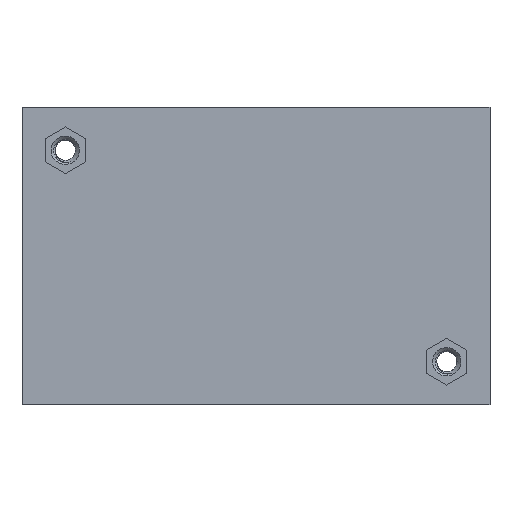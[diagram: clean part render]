
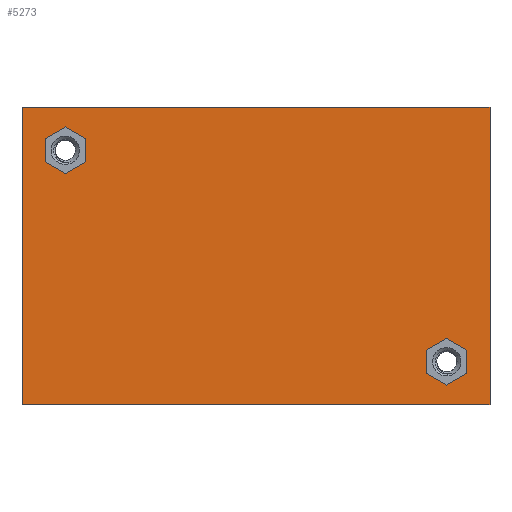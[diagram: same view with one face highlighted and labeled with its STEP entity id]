
A CAD part, front view. The second image highlights one B-rep face of the part: STEP entity #5273.
In plain terms, the highlighted planar face has unit normal (0, -1, 0) as drawn and (0, 1, 0) by its records, which use the part's own axes.
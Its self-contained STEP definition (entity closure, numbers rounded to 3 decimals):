
#5206 = VERTEX_POINT ( 'NONE', #24142 ) ;
#5249 = EDGE_CURVE ( 'NONE', #5262, #5392, #24239, .T. ) ;
#5250 = EDGE_CURVE ( 'NONE', #5251, #5252, #24234, .T. ) ;
#5251 = VERTEX_POINT ( 'NONE', #24304 ) ;
#5252 = VERTEX_POINT ( 'NONE', #24303 ) ;
#5253 = ORIENTED_EDGE ( 'NONE', *, *, #5396, .T. ) ;
#5254 = ORIENTED_EDGE ( 'NONE', *, *, #5255, .T. ) ;
#5255 = EDGE_CURVE ( 'NONE', #5267, #5262, #24302, .T. ) ;
#5257 = ORIENTED_EDGE ( 'NONE', *, *, #5259, .T. ) ;
#5259 = EDGE_CURVE ( 'NONE', #5265, #5267, #24298, .T. ) ;
#5262 = VERTEX_POINT ( 'NONE', #24294 ) ;
#5263 = EDGE_CURVE ( 'NONE', #5264, #5265, #24293, .T. ) ;
#5264 = VERTEX_POINT ( 'NONE', #24289 ) ;
#5265 = VERTEX_POINT ( 'NONE', #24288 ) ;
#5267 = VERTEX_POINT ( 'NONE', #24287 ) ;
#5273 = ADVANCED_FACE ( 'NONE', ( #24282, #24281, #24280 ), #24279, .T. ) ;
#5276 = ORIENTED_EDGE ( 'NONE', *, *, #5263, .T. ) ;
#5280 = EDGE_LOOP ( 'NONE', ( #5276, #5257, #5254, #5394, #5388, #5391 ) ) ;
#5284 = VERTEX_POINT ( 'NONE', #24334 ) ;
#5338 = VERTEX_POINT ( 'NONE', #24340 ) ;
#5340 = ORIENTED_EDGE ( 'NONE', *, *, #5342, .T. ) ;
#5342 = EDGE_CURVE ( 'NONE', #5349, #5345, #24398, .T. ) ;
#5345 = VERTEX_POINT ( 'NONE', #24394 ) ;
#5347 = ORIENTED_EDGE ( 'NONE', *, *, #5355, .T. ) ;
#5349 = VERTEX_POINT ( 'NONE', #24393 ) ;
#5351 = EDGE_CURVE ( 'NONE', #5345, #5370, #24392, .T. ) ;
#5353 = ORIENTED_EDGE ( 'NONE', *, *, #5359, .T. ) ;
#5355 = EDGE_CURVE ( 'NONE', #5338, #5349, #24388, .T. ) ;
#5357 = ORIENTED_EDGE ( 'NONE', *, *, #5351, .T. ) ;
#5359 = EDGE_CURVE ( 'NONE', #5206, #5338, #24384, .T. ) ;
#5361 = ORIENTED_EDGE ( 'NONE', *, *, #5376, .T. ) ;
#5364 = EDGE_LOOP ( 'NONE', ( #5372, #5361, #5353, #5347, #5340, #5357 ) ) ;
#5366 = ORIENTED_EDGE ( 'NONE', *, *, #5377, .T. ) ;
#5368 = EDGE_CURVE ( 'NONE', #5370, #5374, #24380, .T. ) ;
#5370 = VERTEX_POINT ( 'NONE', #24376 ) ;
#5372 = ORIENTED_EDGE ( 'NONE', *, *, #5368, .T. ) ;
#5374 = VERTEX_POINT ( 'NONE', #24375 ) ;
#5376 = EDGE_CURVE ( 'NONE', #5374, #5206, #24374, .T. ) ;
#5377 = EDGE_CURVE ( 'NONE', #5284, #5251, #24370, .T. ) ;
#5378 = EDGE_CURVE ( 'NONE', #5389, #5264, #24429, .T. ) ;
#5380 = ORIENTED_EDGE ( 'NONE', *, *, #5381, .T. ) ;
#5381 = EDGE_CURVE ( 'NONE', #5252, #5382, #24425, .T. ) ;
#5382 = VERTEX_POINT ( 'NONE', #24421 ) ;
#5383 = EDGE_CURVE ( 'NONE', #5392, #5389, #24420, .T. ) ;
#5387 = EDGE_LOOP ( 'NONE', ( #5390, #5380, #5253, #5366 ) ) ;
#5388 = ORIENTED_EDGE ( 'NONE', *, *, #5383, .T. ) ;
#5389 = VERTEX_POINT ( 'NONE', #24416 ) ;
#5390 = ORIENTED_EDGE ( 'NONE', *, *, #5250, .T. ) ;
#5391 = ORIENTED_EDGE ( 'NONE', *, *, #5378, .T. ) ;
#5392 = VERTEX_POINT ( 'NONE', #24415 ) ;
#5394 = ORIENTED_EDGE ( 'NONE', *, *, #5249, .T. ) ;
#5396 = EDGE_CURVE ( 'NONE', #5382, #5284, #24414, .T. ) ;
#23742 = CARTESIAN_POINT ( 'NONE',  ( -28.95, 1.2, -18.4 ) ) ;
#24142 = CARTESIAN_POINT ( 'NONE',  ( 23.6, 1.2, 15.967 ) ) ;
#24234 = LINE ( 'NONE', #23742, #24306 ) ;
#24236 = DIRECTION ( 'NONE',  ( 0., 0., -1. ) ) ;
#24237 = VECTOR ( 'NONE', #24236, 1000. ) ;
#24238 = CARTESIAN_POINT ( 'NONE',  ( -26.1, 1.2, -11.637 ) ) ;
#24239 = LINE ( 'NONE', #24238, #24237 ) ;
#24274 = DIRECTION ( 'NONE',  ( 0., 0., 1. ) ) ;
#24275 = DIRECTION ( 'NONE',  ( 0., 1., 0. ) ) ;
#24276 = AXIS2_PLACEMENT_3D ( 'NONE', #24278, #24275, #24274 ) ;
#24278 = CARTESIAN_POINT ( 'NONE',  ( -28.95, 1.2, 18.4 ) ) ;
#24279 = PLANE ( 'NONE',  #24276 ) ;
#24280 = FACE_BOUND ( 'NONE', #5364, .T. ) ;
#24281 = FACE_OUTER_BOUND ( 'NONE', #5387, .T. ) ;
#24282 = FACE_BOUND ( 'NONE', #5280, .T. ) ;
#24287 = CARTESIAN_POINT ( 'NONE',  ( -23.6, 1.2, -10.193 ) ) ;
#24288 = CARTESIAN_POINT ( 'NONE',  ( -21.1, 1.2, -11.637 ) ) ;
#24289 = CARTESIAN_POINT ( 'NONE',  ( -21.1, 1.2, -14.523 ) ) ;
#24290 = DIRECTION ( 'NONE',  ( 0., 0., 1. ) ) ;
#24291 = VECTOR ( 'NONE', #24290, 1000. ) ;
#24292 = CARTESIAN_POINT ( 'NONE',  ( -21.1, 1.2, -14.523 ) ) ;
#24293 = LINE ( 'NONE', #24292, #24291 ) ;
#24294 = CARTESIAN_POINT ( 'NONE',  ( -26.1, 1.2, -11.637 ) ) ;
#24295 = DIRECTION ( 'NONE',  ( -0.866, 0., 0.5 ) ) ;
#24296 = VECTOR ( 'NONE', #24295, 1000. ) ;
#24297 = CARTESIAN_POINT ( 'NONE',  ( -21.1, 1.2, -11.637 ) ) ;
#24298 = LINE ( 'NONE', #24297, #24296 ) ;
#24299 = DIRECTION ( 'NONE',  ( -0.866, 0., -0.5 ) ) ;
#24300 = VECTOR ( 'NONE', #24299, 1000. ) ;
#24301 = CARTESIAN_POINT ( 'NONE',  ( -23.6, 1.2, -10.193 ) ) ;
#24302 = LINE ( 'NONE', #24301, #24300 ) ;
#24303 = CARTESIAN_POINT ( 'NONE',  ( -28.95, 1.2, 18.4 ) ) ;
#24304 = CARTESIAN_POINT ( 'NONE',  ( -28.95, 1.2, -18.4 ) ) ;
#24305 = DIRECTION ( 'NONE',  ( 0., 0., 1. ) ) ;
#24306 = VECTOR ( 'NONE', #24305, 1000. ) ;
#24334 = CARTESIAN_POINT ( 'NONE',  ( 28.95, 1.2, -18.4 ) ) ;
#24340 = CARTESIAN_POINT ( 'NONE',  ( 21.1, 1.2, 14.523 ) ) ;
#24367 = DIRECTION ( 'NONE',  ( -1., 0., 0. ) ) ;
#24368 = VECTOR ( 'NONE', #24367, 1000. ) ;
#24369 = CARTESIAN_POINT ( 'NONE',  ( -28.95, 1.2, -18.4 ) ) ;
#24370 = LINE ( 'NONE', #24369, #24368 ) ;
#24371 = DIRECTION ( 'NONE',  ( -0.866, 0., 0.5 ) ) ;
#24372 = VECTOR ( 'NONE', #24371, 1000. ) ;
#24373 = CARTESIAN_POINT ( 'NONE',  ( 26.1, 1.2, 14.523 ) ) ;
#24374 = LINE ( 'NONE', #24373, #24372 ) ;
#24375 = CARTESIAN_POINT ( 'NONE',  ( 26.1, 1.2, 14.523 ) ) ;
#24376 = CARTESIAN_POINT ( 'NONE',  ( 26.1, 1.2, 11.637 ) ) ;
#24377 = DIRECTION ( 'NONE',  ( 0., 0., 1. ) ) ;
#24378 = VECTOR ( 'NONE', #24377, 1000. ) ;
#24379 = CARTESIAN_POINT ( 'NONE',  ( 26.1, 1.2, 11.637 ) ) ;
#24380 = LINE ( 'NONE', #24379, #24378 ) ;
#24381 = DIRECTION ( 'NONE',  ( -0.866, 0., -0.5 ) ) ;
#24382 = VECTOR ( 'NONE', #24381, 1000. ) ;
#24383 = CARTESIAN_POINT ( 'NONE',  ( 23.6, 1.2, 15.967 ) ) ;
#24384 = LINE ( 'NONE', #24383, #24382 ) ;
#24385 = DIRECTION ( 'NONE',  ( 0., 0., -1. ) ) ;
#24386 = VECTOR ( 'NONE', #24385, 1000. ) ;
#24387 = CARTESIAN_POINT ( 'NONE',  ( 21.1, 1.2, 14.523 ) ) ;
#24388 = LINE ( 'NONE', #24387, #24386 ) ;
#24389 = DIRECTION ( 'NONE',  ( 0.866, 0., 0.5 ) ) ;
#24390 = VECTOR ( 'NONE', #24389, 1000. ) ;
#24391 = CARTESIAN_POINT ( 'NONE',  ( 23.6, 1.2, 10.193 ) ) ;
#24392 = LINE ( 'NONE', #24391, #24390 ) ;
#24393 = CARTESIAN_POINT ( 'NONE',  ( 21.1, 1.2, 11.637 ) ) ;
#24394 = CARTESIAN_POINT ( 'NONE',  ( 23.6, 1.2, 10.193 ) ) ;
#24395 = DIRECTION ( 'NONE',  ( 0.866, 0., -0.5 ) ) ;
#24396 = VECTOR ( 'NONE', #24395, 1000. ) ;
#24397 = CARTESIAN_POINT ( 'NONE',  ( 21.1, 1.2, 11.637 ) ) ;
#24398 = LINE ( 'NONE', #24397, #24396 ) ;
#24411 = DIRECTION ( 'NONE',  ( 0., 0., -1. ) ) ;
#24412 = VECTOR ( 'NONE', #24411, 1000. ) ;
#24413 = CARTESIAN_POINT ( 'NONE',  ( 28.95, 1.2, -18.4 ) ) ;
#24414 = LINE ( 'NONE', #24413, #24412 ) ;
#24415 = CARTESIAN_POINT ( 'NONE',  ( -26.1, 1.2, -14.523 ) ) ;
#24416 = CARTESIAN_POINT ( 'NONE',  ( -23.6, 1.2, -15.967 ) ) ;
#24417 = DIRECTION ( 'NONE',  ( 0.866, 0., -0.5 ) ) ;
#24418 = VECTOR ( 'NONE', #24417, 1000. ) ;
#24419 = CARTESIAN_POINT ( 'NONE',  ( -26.1, 1.2, -14.523 ) ) ;
#24420 = LINE ( 'NONE', #24419, #24418 ) ;
#24421 = CARTESIAN_POINT ( 'NONE',  ( 28.95, 1.2, 18.4 ) ) ;
#24422 = DIRECTION ( 'NONE',  ( 1., 0., 0. ) ) ;
#24423 = VECTOR ( 'NONE', #24422, 1000. ) ;
#24424 = CARTESIAN_POINT ( 'NONE',  ( -28.95, 1.2, 18.4 ) ) ;
#24425 = LINE ( 'NONE', #24424, #24423 ) ;
#24426 = DIRECTION ( 'NONE',  ( 0.866, 0., 0.5 ) ) ;
#24427 = VECTOR ( 'NONE', #24426, 1000. ) ;
#24428 = CARTESIAN_POINT ( 'NONE',  ( -23.6, 1.2, -15.967 ) ) ;
#24429 = LINE ( 'NONE', #24428, #24427 ) ;
